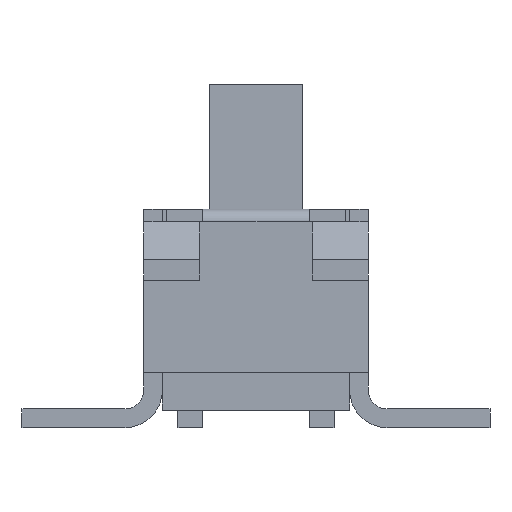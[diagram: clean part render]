
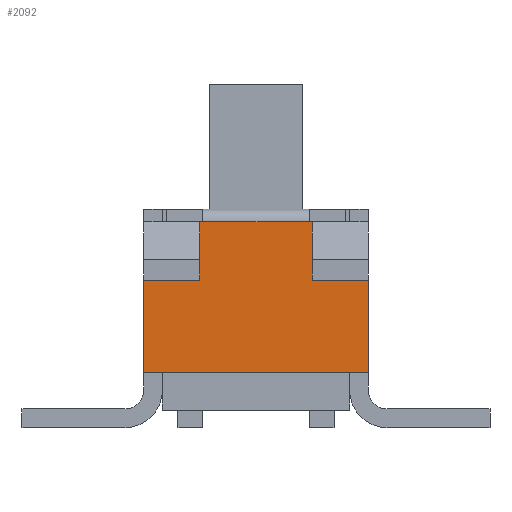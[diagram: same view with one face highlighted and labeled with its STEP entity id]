
A CAD part, left-side view. The second image highlights one B-rep face of the part: STEP entity #2092.
In plain terms, the highlighted planar face has unit normal (-1, 0, 0).
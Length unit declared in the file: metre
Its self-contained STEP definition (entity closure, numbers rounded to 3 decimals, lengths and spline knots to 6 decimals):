
#922 = EDGE_CURVE( '', #2677, #2678, #2679, .T. );
#1218 = EDGE_CURVE( '', #3189, #3190, #3191, .T. );
#1694 = EDGE_CURVE( '', #2678, #3396, #3895, .T. );
#2092 = ADVANCED_FACE( '', ( #4393 ), #4394, .T. );
#2302 = EDGE_CURVE( '', #4586, #3933, #4642, .T. );
#2306 = EDGE_CURVE( '', #3933, #3393, #4646, .T. );
#2336 = EDGE_CURVE( '', #3189, #4586, #4683, .T. );
#2516 = EDGE_CURVE( '', #3396, #3190, #4889, .T. );
#2550 = EDGE_CURVE( '', #2677, #3393, #4925, .T. );
#2677 = VERTEX_POINT( '', #5080 );
#2678 = VERTEX_POINT( '', #5081 );
#2679 = LINE( '', #5082, #5083 );
#3189 = VERTEX_POINT( '', #5799 );
#3190 = VERTEX_POINT( '', #5800 );
#3191 = LINE( '', #5801, #5802 );
#3393 = VERTEX_POINT( '', #6129 );
#3396 = VERTEX_POINT( '', #6134 );
#3895 = LINE( '', #6864, #6865 );
#3933 = VERTEX_POINT( '', #6920 );
#4393 = FACE_OUTER_BOUND( '', #7675, .T. );
#4394 = PLANE( '', #7676 );
#4586 = VERTEX_POINT( '', #7997 );
#4642 = LINE( '', #8105, #8106 );
#4646 = LINE( '', #8113, #8114 );
#4683 = LINE( '', #8194, #8195 );
#4889 = LINE( '', #8532, #8533 );
#4925 = LINE( '', #8596, #8597 );
#5080 = CARTESIAN_POINT( '', ( -0.00425, -0.0009, 0.003297 ) );
#5081 = CARTESIAN_POINT( '', ( -0.00425, 0.0009, 0.003297 ) );
#5082 = CARTESIAN_POINT( '', ( -0.00425, -0.0009, 0.003297 ) );
#5083 = VECTOR( '', #8710, 1. );
#5799 = CARTESIAN_POINT( '', ( -0.00425, 0.0018, 0.000884 ) );
#5800 = CARTESIAN_POINT( '', ( -0.00425, 0.0018, 0.002361 ) );
#5801 = CARTESIAN_POINT( '', ( -0.00425, 0.0018, 0.000884 ) );
#5802 = VECTOR( '', #9248, 1. );
#6129 = CARTESIAN_POINT( '', ( -0.00425, -0.0009, 0.002361 ) );
#6134 = CARTESIAN_POINT( '', ( -0.00425, 0.0009, 0.002361 ) );
#6864 = CARTESIAN_POINT( '', ( -0.00425, 0.0009, 0.003297 ) );
#6865 = VECTOR( '', #10150, 1. );
#6920 = CARTESIAN_POINT( '', ( -0.00425, -0.0018, 0.002361 ) );
#7675 = EDGE_LOOP( '', ( #10845, #10846, #10847, #10848, #10849, #10850, #10851, #10852 ) );
#7676 = AXIS2_PLACEMENT_3D( '', #10853, #10854, #10855 );
#7997 = CARTESIAN_POINT( '', ( -0.00425, -0.0018, 0.000884 ) );
#8105 = CARTESIAN_POINT( '', ( -0.00425, -0.0018, 0.000884 ) );
#8106 = VECTOR( '', #11161, 1. );
#8113 = CARTESIAN_POINT( '', ( -0.00425, -0.0018, 0.002361 ) );
#8114 = VECTOR( '', #11163, 1. );
#8194 = CARTESIAN_POINT( '', ( -0.00425, 0.0018, 0.000884 ) );
#8195 = VECTOR( '', #11246, 1. );
#8532 = CARTESIAN_POINT( '', ( -0.00425, 0.0009, 0.002361 ) );
#8533 = VECTOR( '', #11531, 1. );
#8596 = CARTESIAN_POINT( '', ( -0.00425, -0.0009, 0.003297 ) );
#8597 = VECTOR( '', #11566, 1. );
#8710 = DIRECTION( '', ( 0., 1., 0. ) );
#9248 = DIRECTION( '', ( 0., 0., 1. ) );
#10150 = DIRECTION( '', ( 0., 0., -1. ) );
#10845 = ORIENTED_EDGE( '', *, *, #1218, .F. );
#10846 = ORIENTED_EDGE( '', *, *, #2336, .T. );
#10847 = ORIENTED_EDGE( '', *, *, #2302, .T. );
#10848 = ORIENTED_EDGE( '', *, *, #2306, .T. );
#10849 = ORIENTED_EDGE( '', *, *, #2550, .F. );
#10850 = ORIENTED_EDGE( '', *, *, #922, .T. );
#10851 = ORIENTED_EDGE( '', *, *, #1694, .T. );
#10852 = ORIENTED_EDGE( '', *, *, #2516, .T. );
#10853 = CARTESIAN_POINT( '', ( -0.00425, 0.0018, 0.00028 ) );
#10854 = DIRECTION( '', ( -1., 0., 0. ) );
#10855 = DIRECTION( '', ( 0., 0., 1. ) );
#11161 = DIRECTION( '', ( 0., 0., 1. ) );
#11163 = DIRECTION( '', ( 0., 1., 0. ) );
#11246 = DIRECTION( '', ( 0., -1., 0. ) );
#11531 = DIRECTION( '', ( 0., 1., 0. ) );
#11566 = DIRECTION( '', ( 0., 0., -1. ) );
